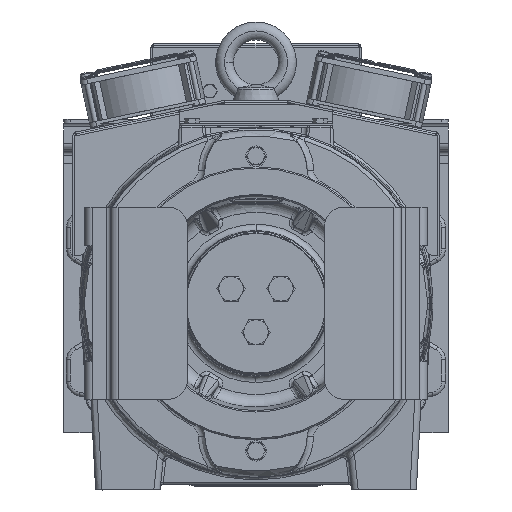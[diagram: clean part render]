
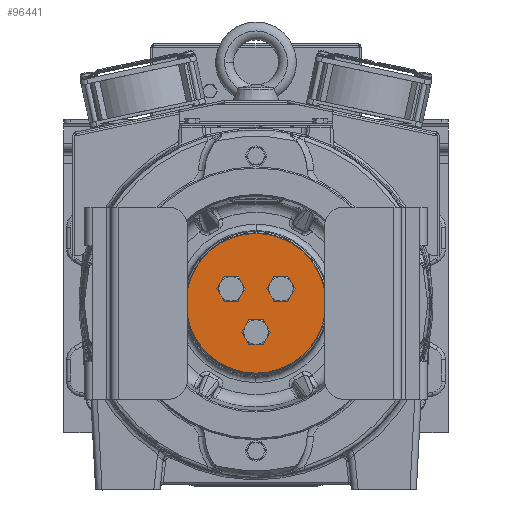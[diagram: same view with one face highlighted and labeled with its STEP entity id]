
A CAD part, top view. The second image highlights one B-rep face of the part: STEP entity #96441.
In plain terms, the highlighted planar face has unit normal (0, 0, 1).
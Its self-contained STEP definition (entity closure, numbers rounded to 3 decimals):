
#96260=CARTESIAN_POINT('',(0.,0.,
428.));
#96261=DIRECTION('',(0.,0.,-1.));
#96262=DIRECTION('',(-0.5,0.866,0.));
#96263=AXIS2_PLACEMENT_3D('',#96260,#96261,#96262);
#96265=CARTESIAN_POINT('',(0.,0.,
428.));
#96266=DIRECTION('',(0.,0.,-1.));
#96267=DIRECTION('',(0.866,0.5,0.));
#96268=AXIS2_PLACEMENT_3D('',#96265,#96266,#96267);
#96270=CARTESIAN_POINT('',(0.,0.,
428.));
#96271=DIRECTION('',(0.,0.,-1.));
#96272=DIRECTION('',(0.5,-0.866,0.));
#96273=AXIS2_PLACEMENT_3D('',#96270,#96271,#96272);
#96275=CARTESIAN_POINT('',(0.,0.,
428.));
#96276=DIRECTION('',(0.,0.,-1.));
#96277=DIRECTION('',(-0.866,-0.5,0.));
#96278=AXIS2_PLACEMENT_3D('',#96275,#96276,#96277);
#96318=CARTESIAN_POINT('',(-47.198,-27.25,
428.));
#96319=CARTESIAN_POINT('',(-27.25,47.198,
428.));
#96320=VERTEX_POINT('',#96318);
#96321=VERTEX_POINT('',#96319);
#96322=CARTESIAN_POINT('',(27.25,-47.198,
428.));
#96323=VERTEX_POINT('',#96322);
#96324=CARTESIAN_POINT('',(47.198,27.25,428.));
#96325=VERTEX_POINT('',#96324);
#96428=CARTESIAN_POINT('',(0.,0.,428.));
#96429=DIRECTION('',(0.,0.,1.));
#96430=DIRECTION('',(0.5,-0.866,0.));
#96431=AXIS2_PLACEMENT_3D('',#96428,#96429,#96430);
#96432=PLANE('',#96431);
#96434=ORIENTED_EDGE('',*,*,#96433,.T.);
#96436=ORIENTED_EDGE('',*,*,#96435,.T.);
#96437=ORIENTED_EDGE('',*,*,#96417,.T.);
#96438=ORIENTED_EDGE('',*,*,#96415,.T.);
#96439=EDGE_LOOP('',(#96434,#96436,#96437,#96438));
#96440=FACE_OUTER_BOUND('',#96439,.F.);
#96441=ADVANCED_FACE('',(#96440),#96432,.T.);
#96264=CIRCLE('',#96263,54.5);
#96269=CIRCLE('',#96268,54.5);
#96274=CIRCLE('',#96273,54.5);
#96279=CIRCLE('',#96278,54.5);
#96415=EDGE_CURVE('',#96320,#96321,#96279,.T.);
#96417=EDGE_CURVE('',#96323,#96320,#96274,.T.);
#96433=EDGE_CURVE('',#96321,#96325,#96264,.T.);
#96435=EDGE_CURVE('',#96325,#96323,#96269,.T.);
